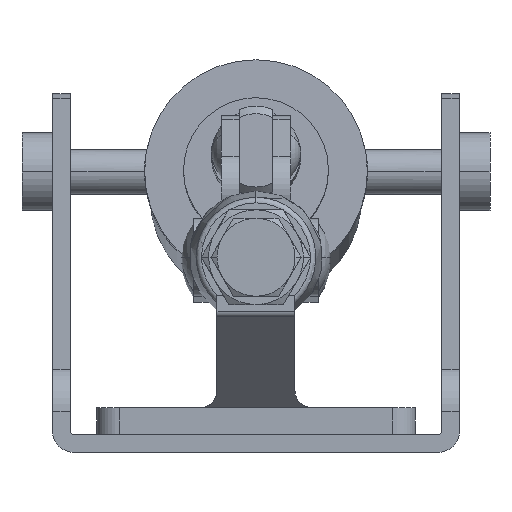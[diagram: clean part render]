
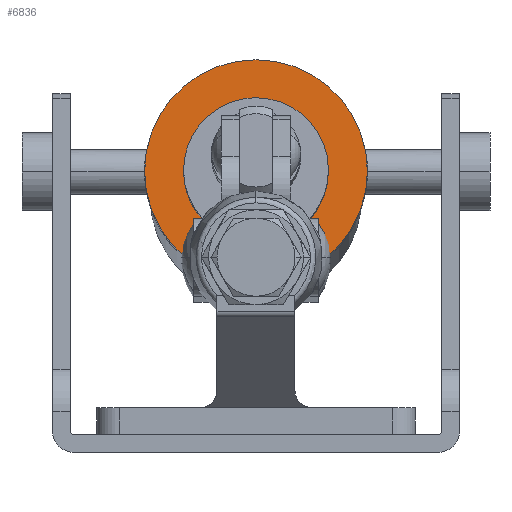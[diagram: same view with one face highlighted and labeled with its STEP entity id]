
A CAD part, left-side view. The second image highlights one B-rep face of the part: STEP entity #6836.
In plain terms, the highlighted planar face has unit normal (-0.999, 0, 0.038).
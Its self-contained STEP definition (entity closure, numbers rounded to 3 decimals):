
#6579=CARTESIAN_POINT('Vertex',(271.146,20.,47.251)) ;
#6667=CARTESIAN_POINT('Vertex',(271.146,-20.,47.251)) ;
#6670=CARTESIAN_POINT('Axis2P3D Location',(271.146,0.,47.251)) ;
#6684=CARTESIAN_POINT('Axis2P3D Location',(271.146,0.,47.251)) ;
#6793=CARTESIAN_POINT('Axis2P3D Location',(268.981,0.,-10.148)) ;
#6802=CARTESIAN_POINT('Axis2P3D Location',(271.146,0.,47.251)) ;
#6806=CARTESIAN_POINT('Vertex',(270.716,6.233,35.85)) ;
#6808=CARTESIAN_POINT('Vertex',(271.146,-13.,47.251)) ;
#6811=CARTESIAN_POINT('Axis2P3D Location',(271.146,0.,47.251)) ;
#6815=CARTESIAN_POINT('Vertex',(271.146,13.,47.251)) ;
#6818=CARTESIAN_POINT('Axis2P3D Location',(271.146,0.,47.251)) ;
#6822=CARTESIAN_POINT('Vertex',(271.577,-6.233,58.651)) ;
#6825=CARTESIAN_POINT('Axis2P3D Location',(271.146,0.,47.251)) ;
#6671=DIRECTION('Axis2P3D Direction',(-0.999,0.,0.038)) ;
#6685=DIRECTION('Axis2P3D Direction',(-0.999,0.,0.038)) ;
#6794=DIRECTION('Axis2P3D Direction',(-0.999,0.,0.038)) ;
#6795=DIRECTION('Axis2P3D XDirection',(0.,-1.,0.)) ;
#6803=DIRECTION('Axis2P3D Direction',(-0.999,0.,0.038)) ;
#6812=DIRECTION('Axis2P3D Direction',(-0.999,0.,0.038)) ;
#6819=DIRECTION('Axis2P3D Direction',(-0.999,0.,0.038)) ;
#6826=DIRECTION('Axis2P3D Direction',(-0.999,0.,0.038)) ;
#6672=AXIS2_PLACEMENT_3D('Circle Axis2P3D',#6670,#6671,$) ;
#6686=AXIS2_PLACEMENT_3D('Circle Axis2P3D',#6684,#6685,$) ;
#6796=AXIS2_PLACEMENT_3D('Plane Axis2P3D',#6793,#6794,#6795) ;
#6804=AXIS2_PLACEMENT_3D('Circle Axis2P3D',#6802,#6803,$) ;
#6813=AXIS2_PLACEMENT_3D('Circle Axis2P3D',#6811,#6812,$) ;
#6820=AXIS2_PLACEMENT_3D('Circle Axis2P3D',#6818,#6819,$) ;
#6827=AXIS2_PLACEMENT_3D('Circle Axis2P3D',#6825,#6826,$) ;
#6799=ORIENTED_EDGE('',*,*,#6688,.T.) ;
#6800=ORIENTED_EDGE('',*,*,#6674,.T.) ;
#6831=ORIENTED_EDGE('',*,*,#6810,.F.) ;
#6832=ORIENTED_EDGE('',*,*,#6817,.F.) ;
#6833=ORIENTED_EDGE('',*,*,#6824,.F.) ;
#6834=ORIENTED_EDGE('',*,*,#6829,.F.) ;
#6835=FACE_BOUND('',#6830,.T.) ;
#6836=ADVANCED_FACE('',(#6801,#6835),#6797,.T.) ;
#6673=CIRCLE('generated circle',#6672,20.) ;
#6687=CIRCLE('generated circle',#6686,20.) ;
#6805=CIRCLE('generated circle',#6804,13.) ;
#6814=CIRCLE('generated circle',#6813,13.) ;
#6821=CIRCLE('generated circle',#6820,13.) ;
#6828=CIRCLE('generated circle',#6827,13.) ;
#6674=EDGE_CURVE('',#6580,#6668,#6673,.T.) ;
#6688=EDGE_CURVE('',#6668,#6580,#6687,.T.) ;
#6810=EDGE_CURVE('',#6807,#6809,#6805,.T.) ;
#6817=EDGE_CURVE('',#6816,#6807,#6814,.T.) ;
#6824=EDGE_CURVE('',#6823,#6816,#6821,.T.) ;
#6829=EDGE_CURVE('',#6809,#6823,#6828,.T.) ;
#6798=EDGE_LOOP('',(#6799,#6800)) ;
#6830=EDGE_LOOP('',(#6831,#6832,#6833,#6834)) ;
#6801=FACE_OUTER_BOUND('',#6798,.T.) ;
#6797=PLANE('Plane',#6796) ;
#6580=VERTEX_POINT('',#6579) ;
#6668=VERTEX_POINT('',#6667) ;
#6807=VERTEX_POINT('',#6806) ;
#6809=VERTEX_POINT('',#6808) ;
#6816=VERTEX_POINT('',#6815) ;
#6823=VERTEX_POINT('',#6822) ;
